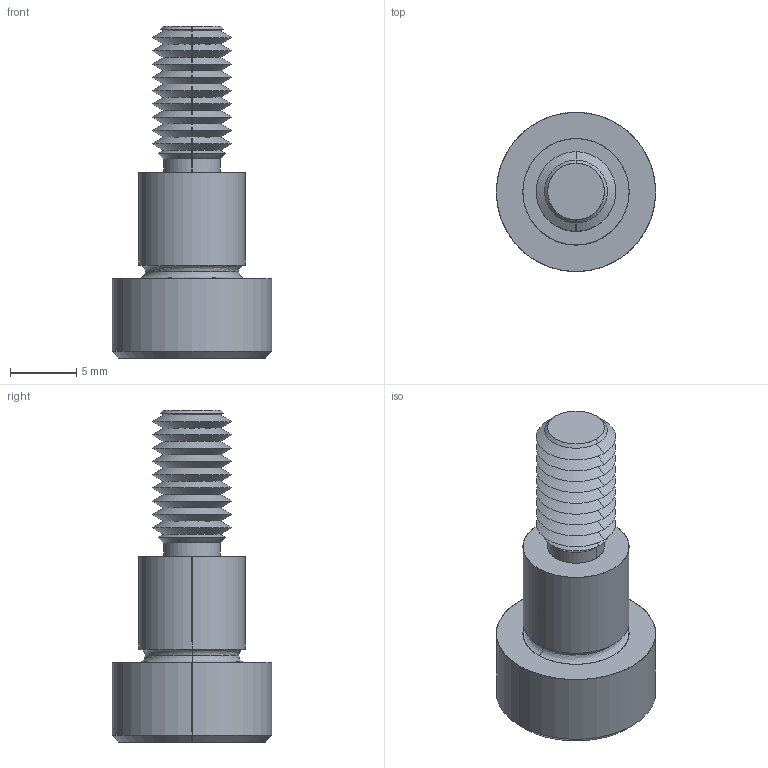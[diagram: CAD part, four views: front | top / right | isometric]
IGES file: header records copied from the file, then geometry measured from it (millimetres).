
Start section: SolidWorks IGES file using analytic representation for surfaces
Global section: file name: C:\Users\IanO\Documents\Temp Folder\GENERAL\SCREW REVISION\P0130_v2\P0130.T5_v2_20220106_IGES\P0130.080-008-T5.igs; native system: SolidWorks 2019; preprocessor: SolidWorks 2019; author: IanO; date: 220106.223139; units: millimetre
Bounding box: 12 x 12 x 25 mm (x, y, z)
Surface area: 1037.3 mm2 (no closed solid volume)
Topology: 0 solids, 0 shells, 80 faces, 580 edges, 578 vertices
Faces by surface type: revolution 60, bspline 20
